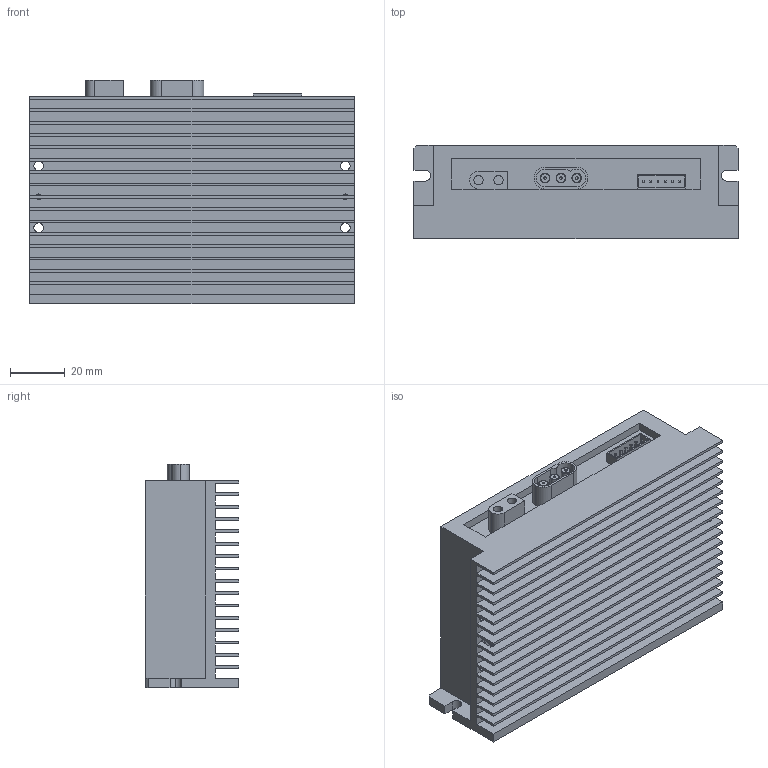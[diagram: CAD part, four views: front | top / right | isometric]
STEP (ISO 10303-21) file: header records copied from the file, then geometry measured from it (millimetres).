
FILE_DESCRIPTION (( 'STEP AP214' ), '1' );
FILE_NAME ('24V-600WÇý¶¯Æ÷.STEP', '2025-02-11T09:04:31', ( '' ), ( '' ), 'SwSTEP 2.0', 'SolidWorks 2022', '' );
FILE_SCHEMA (( 'AUTOMOTIVE_DESIGN' ));
Length unit declared in the file: millimetre
Products named in the file (1): 24V-600W驱动器
Bounding box: 118 x 34 x 81.5 mm (x, y, z)
Volume: 222543.1 mm3; surface area: 64592.4 mm2
Topology: 1 solids, 1 shells, 228 faces, 611 edges, 388 vertices
Faces by surface type: plane 178, cylinder 40, torus 6, cone 4
Entity records: 8161 total; most frequent: CARTESIAN_POINT 1264, ORIENTED_EDGE 1214, DIRECTION 1157, EDGE_CURVE 607, VECTOR 499, LINE 499, VERTEX_POINT 388, AXIS2_PLACEMENT_3D 329
